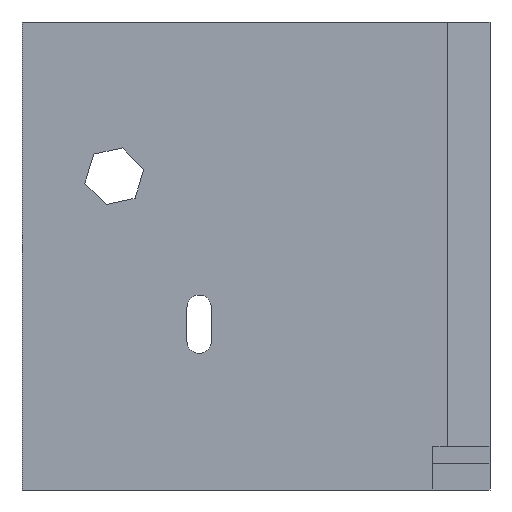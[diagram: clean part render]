
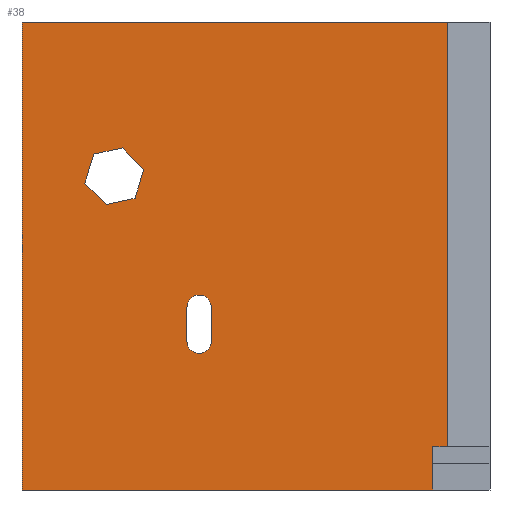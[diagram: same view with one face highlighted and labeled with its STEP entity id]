
A CAD part, left-side view. The second image highlights one B-rep face of the part: STEP entity #38.
In plain terms, the highlighted planar face has unit normal (-1, 0, 0).
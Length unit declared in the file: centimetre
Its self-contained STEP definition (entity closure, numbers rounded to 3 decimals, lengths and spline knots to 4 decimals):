
#6 = DIRECTION ( 'NONE',  ( 1., 0., 0. ) ) ;
#14 = CARTESIAN_POINT ( 'NONE',  ( 0., 595.582, 317.9519 ) ) ;
#36 = DIRECTION ( 'NONE',  ( 0., 0., 1. ) ) ;
#38 = ADVANCED_FACE ( 'NONE', ( #794, #274, #690 ), #599, .F. ) ;
#54 = AXIS2_PLACEMENT_3D ( 'NONE', #75, #1239, #1011 ) ;
#63 = CARTESIAN_POINT ( 'NONE',  ( 0., 846.9232, 717.6336 ) ) ;
#67 = CARTESIAN_POINT ( 'NONE',  ( 0., 91.1736, 92.8443 ) ) ;
#68 = VERTEX_POINT ( 'NONE', #291 ) ;
#71 = DIRECTION ( 'NONE',  ( 0., -1., 0. ) ) ;
#75 = CARTESIAN_POINT ( 'NONE',  ( 0., 1000., 1000. ) ) ;
#83 = DIRECTION ( 'NONE',  ( 0., 0., 1. ) ) ;
#112 = ORIENTED_EDGE ( 'NONE', *, *, #672, .F. ) ;
#124 = EDGE_CURVE ( 'NONE', #68, #663, #1041, .T. ) ;
#129 = CARTESIAN_POINT ( 'NONE',  ( 0., 595.582, 390.6062 ) ) ;
#147 = LINE ( 'NONE', #772, #1070 ) ;
#166 = VERTEX_POINT ( 'NONE', #1160 ) ;
#169 = LINE ( 'NONE', #275, #437 ) ;
#181 = VECTOR ( 'NONE', #83, 100. ) ;
#199 = DIRECTION ( 'NONE',  ( 1., 0., 0. ) ) ;
#200 = VECTOR ( 'NONE', #1273, 100. ) ;
#203 = LINE ( 'NONE', #1355, #964 ) ;
#207 = CARTESIAN_POINT ( 'NONE',  ( 0., 647.4711, 390.6062 ) ) ;
#227 = LINE ( 'NONE', #753, #576 ) ;
#238 = CARTESIAN_POINT ( 'NONE',  ( 0., 819.9501, 610.068 ) ) ;
#248 = DIRECTION ( 'NONE',  ( 0., 0., -1. ) ) ;
#259 = EDGE_LOOP ( 'NONE', ( #1101, #1209, #969, #1039, #429, #503 ) ) ;
#262 = LINE ( 'NONE', #373, #635 ) ;
#266 = ORIENTED_EDGE ( 'NONE', *, *, #124, .T. ) ;
#274 = FACE_BOUND ( 'NONE', #619, .T. ) ;
#275 = CARTESIAN_POINT ( 'NONE',  ( 0., 785.4365, 730.9063 ) ) ;
#282 = LINE ( 'NONE', #822, #662 ) ;
#291 = CARTESIAN_POINT ( 'NONE',  ( 0., 647.4711, 317.9519 ) ) ;
#301 = EDGE_CURVE ( 'NONE', #166, #357, #352, .T. ) ;
#308 = VECTOR ( 'NONE', #1058, 100. ) ;
#319 = CARTESIAN_POINT ( 'NONE',  ( 0., 758.4634, 623.3407 ) ) ;
#352 = LINE ( 'NONE', #686, #1032 ) ;
#357 = VERTEX_POINT ( 'NONE', #568 ) ;
#358 = EDGE_CURVE ( 'NONE', #781, #498, #169, .T. ) ;
#368 = CARTESIAN_POINT ( 'NONE',  ( 0., 758.4634, 623.3407 ) ) ;
#369 = VERTEX_POINT ( 'NONE', #462 ) ;
#373 = CARTESIAN_POINT ( 'NONE',  ( 0., 1000., 1000. ) ) ;
#382 = VERTEX_POINT ( 'NONE', #559 ) ;
#383 = CARTESIAN_POINT ( 'NONE',  ( 0., 621.5266, 317.9519 ) ) ;
#404 = EDGE_CURVE ( 'NONE', #663, #826, #1170, .T. ) ;
#406 = VECTOR ( 'NONE', #1208, 100. ) ;
#419 = EDGE_CURVE ( 'NONE', #996, #1317, #1245, .T. ) ;
#421 = CARTESIAN_POINT ( 'NONE',  ( 0., 621.5266, 317.9519 ) ) ;
#424 = ORIENTED_EDGE ( 'NONE', *, *, #604, .F. ) ;
#429 = ORIENTED_EDGE ( 'NONE', *, *, #1338, .T. ) ;
#432 = ORIENTED_EDGE ( 'NONE', *, *, #717, .T. ) ;
#437 = VECTOR ( 'NONE', #691, 100. ) ;
#460 = CARTESIAN_POINT ( 'NONE',  ( 0., 1000., 0. ) ) ;
#462 = CARTESIAN_POINT ( 'NONE',  ( 0., 1000., 1000. ) ) ;
#465 = ORIENTED_EDGE ( 'NONE', *, *, #404, .T. ) ;
#494 = CARTESIAN_POINT ( 'NONE',  ( 0., 91.1736, 1000. ) ) ;
#498 = VERTEX_POINT ( 'NONE', #63 ) ;
#503 = ORIENTED_EDGE ( 'NONE', *, *, #942, .T. ) ;
#505 = AXIS2_PLACEMENT_3D ( 'NONE', #383, #199, #1012 ) ;
#509 = EDGE_CURVE ( 'NONE', #1308, #861, #727, .T. ) ;
#514 = EDGE_CURVE ( 'NONE', #166, #996, #282, .T. ) ;
#544 = CIRCLE ( 'NONE', #722, 25.9445 ) ;
#557 = CARTESIAN_POINT ( 'NONE',  ( 0., 785.4365, 730.9063 ) ) ;
#559 = CARTESIAN_POINT ( 'NONE',  ( 0., 819.9501, 610.068 ) ) ;
#568 = CARTESIAN_POINT ( 'NONE',  ( 0., 122.3348, 0. ) ) ;
#576 = VECTOR ( 'NONE', #1192, 100. ) ;
#599 = PLANE ( 'NONE',  #54 ) ;
#604 = EDGE_CURVE ( 'NONE', #759, #382, #755, .T. ) ;
#619 = EDGE_LOOP ( 'NONE', ( #793, #909, #1128, #671, #112, #424 ) ) ;
#635 = VECTOR ( 'NONE', #993, 100. ) ;
#639 = VECTOR ( 'NONE', #950, 100. ) ;
#642 = CARTESIAN_POINT ( 'NONE',  ( 0., 595.582, 317.9519 ) ) ;
#655 = LINE ( 'NONE', #642, #308 ) ;
#662 = VECTOR ( 'NONE', #71, 100. ) ;
#663 = VERTEX_POINT ( 'NONE', #1179 ) ;
#671 = ORIENTED_EDGE ( 'NONE', *, *, #1069, .F. ) ;
#672 = EDGE_CURVE ( 'NONE', #382, #1276, #956, .T. ) ;
#686 = CARTESIAN_POINT ( 'NONE',  ( 0., 122.3348, 0. ) ) ;
#687 = LINE ( 'NONE', #785, #1065 ) ;
#690 = FACE_OUTER_BOUND ( 'NONE', #259, .T. ) ;
#691 = DIRECTION ( 'NONE',  ( 0., 0.977, -0.211 ) ) ;
#697 = ORIENTED_EDGE ( 'NONE', *, *, #1307, .T. ) ;
#701 = VERTEX_POINT ( 'NONE', #748 ) ;
#717 = EDGE_CURVE ( 'NONE', #861, #68, #544, .T. ) ;
#722 = AXIS2_PLACEMENT_3D ( 'NONE', #421, #6, #839 ) ;
#727 = CIRCLE ( 'NONE', #505, 25.9445 ) ;
#748 = CARTESIAN_POINT ( 'NONE',  ( 0., 739.7483, 685.2181 ) ) ;
#753 = CARTESIAN_POINT ( 'NONE',  ( 0., 1000., 0. ) ) ;
#755 = LINE ( 'NONE', #853, #639 ) ;
#759 = VERTEX_POINT ( 'NONE', #1080 ) ;
#769 = EDGE_CURVE ( 'NONE', #701, #781, #147, .T. ) ;
#772 = CARTESIAN_POINT ( 'NONE',  ( 0., 739.7483, 685.2181 ) ) ;
#781 = VERTEX_POINT ( 'NONE', #557 ) ;
#785 = CARTESIAN_POINT ( 'NONE',  ( 0., 846.9232, 717.6336 ) ) ;
#793 = ORIENTED_EDGE ( 'NONE', *, *, #1019, .F. ) ;
#794 = FACE_BOUND ( 'NONE', #1057, .T. ) ;
#813 = VERTEX_POINT ( 'NONE', #460 ) ;
#822 = CARTESIAN_POINT ( 'NONE',  ( 0., 122.3348, 92.8443 ) ) ;
#826 = VERTEX_POINT ( 'NONE', #129 ) ;
#839 = DIRECTION ( 'NONE',  ( 0., 0., 1. ) ) ;
#848 = CARTESIAN_POINT ( 'NONE',  ( 0., 91.1736, 1000. ) ) ;
#853 = CARTESIAN_POINT ( 'NONE',  ( 0., 865.6383, 655.7562 ) ) ;
#861 = VERTEX_POINT ( 'NONE', #1171 ) ;
#907 = VECTOR ( 'NONE', #934, 100. ) ;
#909 = ORIENTED_EDGE ( 'NONE', *, *, #358, .F. ) ;
#934 = DIRECTION ( 'NONE',  ( 0., 0., 1. ) ) ;
#937 = ORIENTED_EDGE ( 'NONE', *, *, #509, .T. ) ;
#942 = EDGE_CURVE ( 'NONE', #813, #357, #227, .T. ) ;
#950 = DIRECTION ( 'NONE',  ( 0., -0.707, -0.707 ) ) ;
#956 = LINE ( 'NONE', #238, #200 ) ;
#964 = VECTOR ( 'NONE', #1118, 100. ) ;
#969 = ORIENTED_EDGE ( 'NONE', *, *, #419, .T. ) ;
#970 = DIRECTION ( 'NONE',  ( 0., 0.707, 0.707 ) ) ;
#976 = LINE ( 'NONE', #368, #406 ) ;
#993 = DIRECTION ( 'NONE',  ( 0., 0., -1. ) ) ;
#996 = VERTEX_POINT ( 'NONE', #67 ) ;
#1011 = DIRECTION ( 'NONE',  ( 0., 0., -1. ) ) ;
#1012 = DIRECTION ( 'NONE',  ( 0., 0., 1. ) ) ;
#1019 = EDGE_CURVE ( 'NONE', #498, #759, #687, .T. ) ;
#1032 = VECTOR ( 'NONE', #248, 100. ) ;
#1039 = ORIENTED_EDGE ( 'NONE', *, *, #1186, .F. ) ;
#1041 = LINE ( 'NONE', #207, #907 ) ;
#1057 = EDGE_LOOP ( 'NONE', ( #697, #937, #432, #266, #465 ) ) ;
#1058 = DIRECTION ( 'NONE',  ( 0., 0., -1. ) ) ;
#1065 = VECTOR ( 'NONE', #1095, 100. ) ;
#1069 = EDGE_CURVE ( 'NONE', #1276, #701, #976, .T. ) ;
#1070 = VECTOR ( 'NONE', #970, 100. ) ;
#1080 = CARTESIAN_POINT ( 'NONE',  ( 0., 865.6383, 655.7562 ) ) ;
#1095 = DIRECTION ( 'NONE',  ( 0., 0.29, -0.957 ) ) ;
#1101 = ORIENTED_EDGE ( 'NONE', *, *, #301, .F. ) ;
#1118 = DIRECTION ( 'NONE',  ( 0., -1., 0. ) ) ;
#1128 = ORIENTED_EDGE ( 'NONE', *, *, #769, .F. ) ;
#1160 = CARTESIAN_POINT ( 'NONE',  ( 0., 122.3348, 92.8443 ) ) ;
#1170 = CIRCLE ( 'NONE', #1372, 25.9445 ) ;
#1171 = CARTESIAN_POINT ( 'NONE',  ( 0., 621.5266, 292.0074 ) ) ;
#1179 = CARTESIAN_POINT ( 'NONE',  ( 0., 647.4711, 390.6062 ) ) ;
#1186 = EDGE_CURVE ( 'NONE', #369, #1317, #203, .T. ) ;
#1189 = DIRECTION ( 'NONE',  ( 1., 0., 0. ) ) ;
#1192 = DIRECTION ( 'NONE',  ( 0., -1., 0. ) ) ;
#1208 = DIRECTION ( 'NONE',  ( 0., -0.29, 0.957 ) ) ;
#1209 = ORIENTED_EDGE ( 'NONE', *, *, #514, .T. ) ;
#1213 = CARTESIAN_POINT ( 'NONE',  ( 0., 621.5266, 390.6062 ) ) ;
#1239 = DIRECTION ( 'NONE',  ( 1., 0., 0. ) ) ;
#1245 = LINE ( 'NONE', #494, #181 ) ;
#1273 = DIRECTION ( 'NONE',  ( 0., -0.977, 0.211 ) ) ;
#1276 = VERTEX_POINT ( 'NONE', #319 ) ;
#1307 = EDGE_CURVE ( 'NONE', #826, #1308, #655, .T. ) ;
#1308 = VERTEX_POINT ( 'NONE', #14 ) ;
#1317 = VERTEX_POINT ( 'NONE', #848 ) ;
#1338 = EDGE_CURVE ( 'NONE', #369, #813, #262, .T. ) ;
#1355 = CARTESIAN_POINT ( 'NONE',  ( 0., 1000., 1000. ) ) ;
#1372 = AXIS2_PLACEMENT_3D ( 'NONE', #1213, #1189, #36 ) ;
